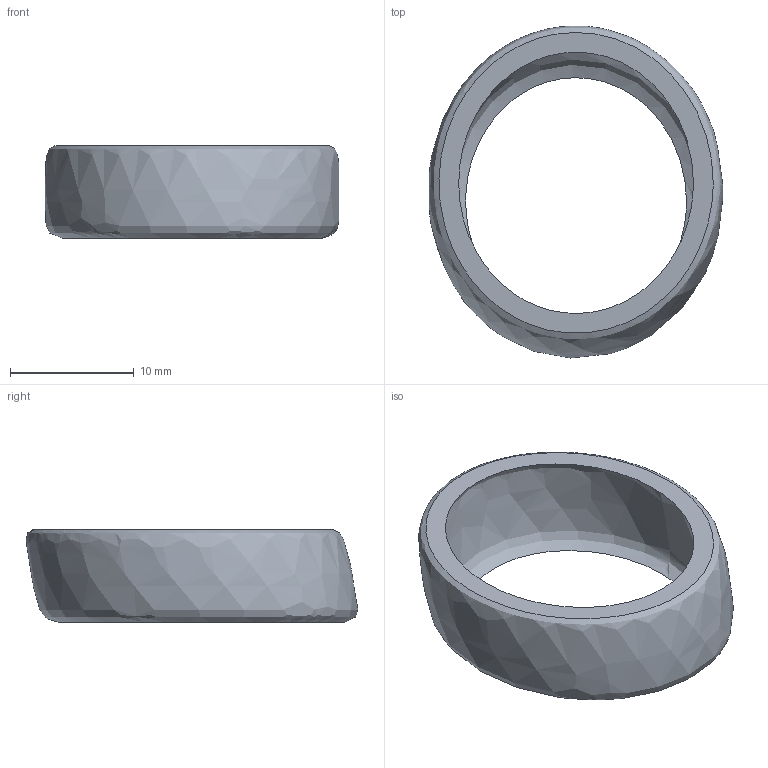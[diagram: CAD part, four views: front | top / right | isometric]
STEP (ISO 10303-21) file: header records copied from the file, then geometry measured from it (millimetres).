
FILE_DESCRIPTION(('FreeCAD Model'),'2;1');
FILE_NAME('Open CASCADE Shape Model','2026-11-20T08:25:38',('FreeCAD'),( 'FreeCAD'),'Open CASCADE STEP processor 7.8','FreeCAD','Unknown');
FILE_SCHEMA(('AUTOMOTIVE_DESIGN { 1 0 10303 214 1 1 1 1 }'));
Length unit declared in the file: millimetre
Products named in the file (1): Open CASCADE STEP translator 7.8 32
Bounding box: 23.79 x 26.85 x 7.45 mm (x, y, z)
Volume: 866 mm3; surface area: 1452.2 mm2
Topology: 1 solids, 1 shells, 4 faces, 6 edges, 4 vertices
Faces by surface type: bspline 2, plane 2
Entity records: 338 total; most frequent: CARTESIAN_POINT 275, ORIENTED_EDGE 12, DIRECTION 6, FACE_BOUND 6, EDGE_LOOP 6, EDGE_CURVE 6, ADVANCED_FACE 4, VERTEX_POINT 4
